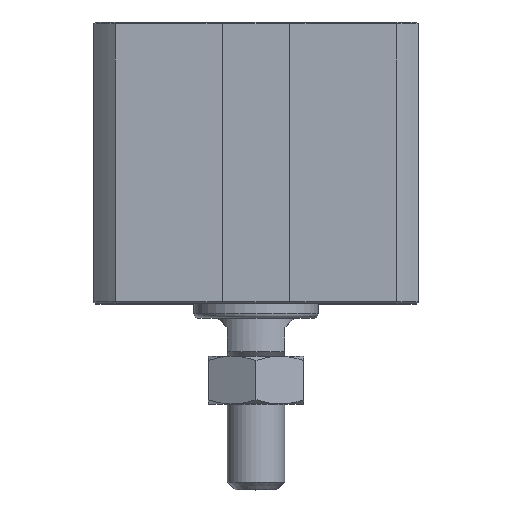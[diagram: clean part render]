
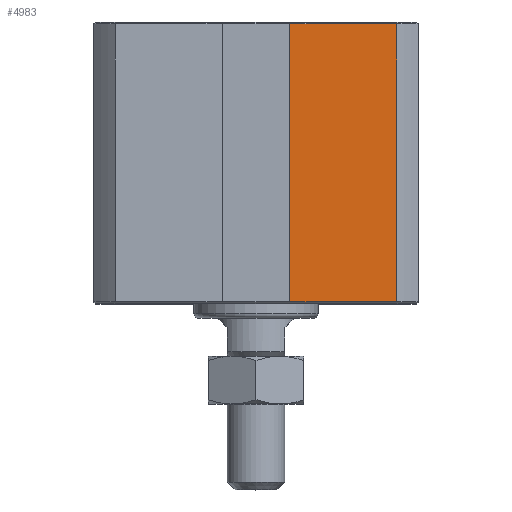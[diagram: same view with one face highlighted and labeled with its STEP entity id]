
A CAD part, top view. The second image highlights one B-rep face of the part: STEP entity #4983.
In plain terms, the highlighted planar face has unit normal (0, 0, 1).
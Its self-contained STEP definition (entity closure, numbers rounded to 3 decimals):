
#223=LINE('',#6882,#497);
#226=LINE('',#6888,#500);
#227=LINE('',#6891,#501);
#228=LINE('',#6892,#502);
#497=VECTOR('',#5850,1000.);
#500=VECTOR('',#5855,1000.);
#501=VECTOR('',#5856,1000.);
#502=VECTOR('',#5857,1000.);
#893=ORIENTED_EDGE('',*,*,#1775,.F.);
#894=ORIENTED_EDGE('',*,*,#1776,.T.);
#895=ORIENTED_EDGE('',*,*,#1772,.T.);
#896=ORIENTED_EDGE('',*,*,#1777,.T.);
#1772=EDGE_CURVE('',#2227,#2228,#223,.T.);
#1775=EDGE_CURVE('',#2229,#2230,#226,.T.);
#1776=EDGE_CURVE('',#2229,#2227,#227,.T.);
#1777=EDGE_CURVE('',#2228,#2230,#228,.T.);
#2227=VERTEX_POINT('',#6883);
#2228=VERTEX_POINT('',#6884);
#2229=VERTEX_POINT('',#6889);
#2230=VERTEX_POINT('',#6890);
#2630=EDGE_LOOP('',(#893,#894,#895,#896));
#2936=FACE_BOUND('',#2630,.T.);
#3177=PLANE('',#5290);
#4983=ADVANCED_FACE('',(#2936),#3177,.T.);
#5290=AXIS2_PLACEMENT_3D('',#6887,#5853,#5854);
#5850=DIRECTION('',(0.,-1.,0.));
#5853=DIRECTION('',(0.,0.,1.));
#5854=DIRECTION('',(1.,0.,0.));
#5855=DIRECTION('',(0.,-1.,0.));
#5856=DIRECTION('',(-1.,0.,0.));
#5857=DIRECTION('',(1.,0.,0.));
#6882=CARTESIAN_POINT('',(3.55,29.5,16.997));
#6883=CARTESIAN_POINT('',(3.55,29.3,16.997));
#6884=CARTESIAN_POINT('',(3.55,0.2,16.997));
#6887=CARTESIAN_POINT('',(3.55,29.5,16.997));
#6888=CARTESIAN_POINT('',(14.741,29.5,16.997));
#6889=CARTESIAN_POINT('',(14.741,29.3,16.997));
#6890=CARTESIAN_POINT('',(14.741,0.2,16.997));
#6891=CARTESIAN_POINT('',(3.55,29.3,16.997));
#6892=CARTESIAN_POINT('',(3.55,0.2,16.997));
